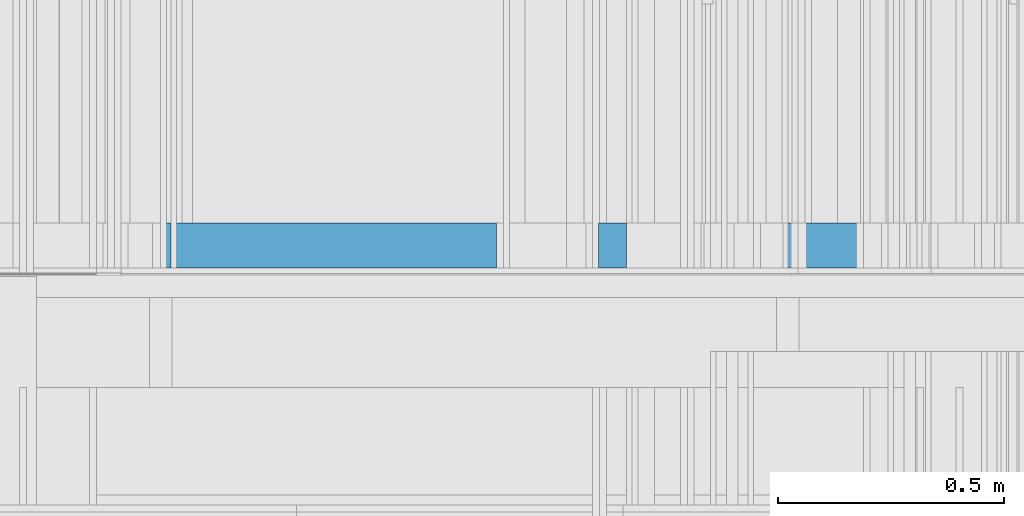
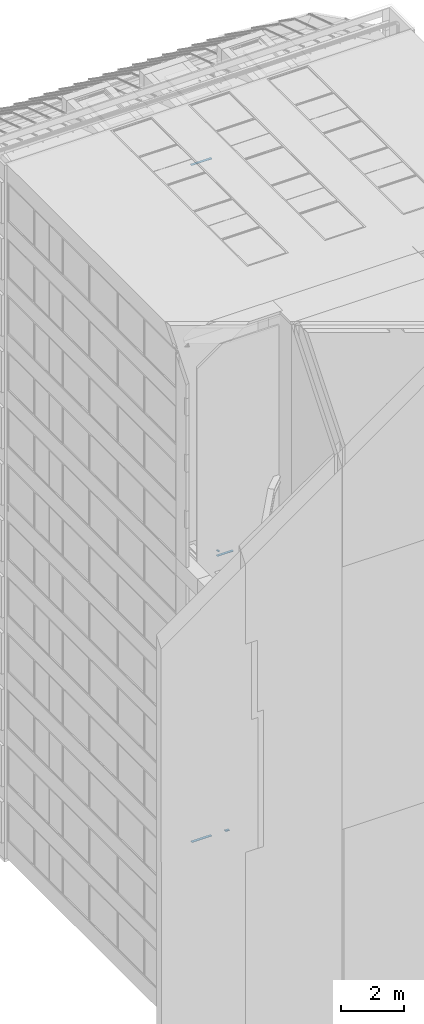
# One storey, part 212 of 583: 5 building element parts, 4 elements without a shape of their own.
"""IFC2X3 building model written with IfcOpenShell, lengths in metres."""

import ifcopenshell
import ifcopenshell.guid

model = None  # the IFC model being written
_history = None  # IfcOwnerHistory: only IFC2X3 demands one
_inside = {}  # id of a spatial element -> (the spatial element, [elements in it])
_under = {}  # id of a project, library or spatial element -> (it, [spatial elements below it])
_declared = {}  # id of a project -> (the project, [libraries it declares])
_typed = {}  # id of a type object -> (the type object, [elements of that type])
_made_of = {}  # id of a material, layer set ... -> (it, [elements and type objects made of it])


def new_model(schema):
    """Start an empty IFC model of exactly this schema.

    Asked for "IFC4X3", IfcOpenShell would pick the latest addendum, in which some entities
    have other attributes; the version numbers below select the first issue.
    IFC2X3 requires an IfcOwnerHistory on every rooted entity: one is made here for all.
    """
    global model, _history
    if schema == "IFC4X3":
        model = ifcopenshell.file(schema_version=(4, 3, 0, 0))
    else:
        model = ifcopenshell.file(schema=schema)
    _inside.clear()
    _under.clear()
    _declared.clear()
    _typed.clear()
    _made_of.clear()
    _history = None
    if model.schema == "IFC2X3":
        org = make("IfcOrganization", Name="unknown")
        user = make(
            "IfcPersonAndOrganization",
            ThePerson=make("IfcPerson", FamilyName="unknown"),
            TheOrganization=org,
        )
        app = make(
            "IfcApplication",
            ApplicationDeveloper=org,
            Version="unknown",
            ApplicationFullName="unknown",
            ApplicationIdentifier="unknown",
        )
        _history = make(
            "IfcOwnerHistory",
            OwningUser=user,
            OwningApplication=app,
            ChangeAction="ADDED",
            CreationDate=0,
        )
    return model


def make(cls, **values):
    """One entity of the class cls with the attributes given. An attribute that is None is left unset."""
    return model.create_entity(
        cls, **{name: value for name, value in values.items() if value is not None}
    )


def entity(cls, *values):
    """Any entity or typed value of the class cls, its attributes in the order of the schema. None: left unset."""
    e = model.create_entity(cls)
    for i, value in enumerate(values):
        if value is not None:
            e[i] = value
    return e


def rooted(cls, **values):
    """An entity with a GlobalId (a new one), such as an element, a storey or a relation."""
    return make(cls, GlobalId=ifcopenshell.guid.new(), OwnerHistory=_history, **values)


def si_unit(unit_type, name, prefix=None):
    """IfcSIUnit, for example si_unit("LENGTHUNIT", "METRE", prefix="MILLI")."""
    return make("IfcSIUnit", UnitType=unit_type, Prefix=prefix, Name=name)


def converted_unit(unit_type, name, factor, base, dimensions=None, offset=None):
    """IfcConversionBasedUnit, such as the inch: factor (a typed value) times the base unit."""
    return make(
        "IfcConversionBasedUnit"
        if offset is None
        else "IfcConversionBasedUnitWithOffset",
        ConversionOffset=offset,
        Dimensions=None
        if dimensions is None
        else entity("IfcDimensionalExponents", *dimensions),
        UnitType=unit_type,
        Name=name,
        ConversionFactor=make(
            "IfcMeasureWithUnit", ValueComponent=factor, UnitComponent=base
        ),
    )


def derived_unit(unit_type, elements):
    """IfcDerivedUnit: a product of units, each with its exponent."""
    return make(
        "IfcDerivedUnit",
        Elements=[
            make("IfcDerivedUnitElement", Unit=unit, Exponent=power)
            for unit, power in elements
        ],
        UnitType=unit_type,
    )


def money_unit(currency):
    """IfcMonetaryUnit."""
    return make("IfcMonetaryUnit", Currency=currency)


def assignment(units):
    """IfcUnitAssignment: the units of a project."""
    return None if units is None else make("IfcUnitAssignment", Units=units)


def point(xyz):
    """IfcCartesianPoint."""
    return None if xyz is None else make("IfcCartesianPoint", Coordinates=xyz)


def direction(xyz):
    """IfcDirection."""
    return None if xyz is None else make("IfcDirection", DirectionRatios=xyz)


def frame(location, z_axis=None, x_axis=None):
    """IfcAxis2Placement3D, a coordinate frame: its origin and axes. An axis left out is left unset."""
    return make(
        "IfcAxis2Placement3D",
        Location=point(location),
        Axis=direction(z_axis),
        RefDirection=direction(x_axis),
    )


def frame_2d(location, x_axis=None):
    """IfcAxis2Placement2D, a coordinate frame in the plane: its origin and x axis."""
    return make(
        "IfcAxis2Placement2D", Location=point(location), RefDirection=direction(x_axis)
    )


def origin_with_axes():
    """The frame at (0, 0, 0) with the z axis (0, 0, 1) and the x axis (1, 0, 0) written out."""
    return frame((0.0, 0.0, 0.0), z_axis=(0.0, 0.0, 1.0), x_axis=(1.0, 0.0, 0.0))


def place(relative_to, where):
    """IfcLocalPlacement: puts the frame where relative to a parent placement (None: the world)."""
    return make(
        "IfcLocalPlacement", PlacementRelTo=relative_to, RelativePlacement=where
    )


def context(
    kind, dimensions, precision=None, world=None, true_north=None, identifier=None
):
    """IfcGeometricRepresentationContext, for example the 3D "Model" context."""
    return make(
        "IfcGeometricRepresentationContext",
        ContextIdentifier=identifier,
        ContextType=kind,
        CoordinateSpaceDimension=dimensions,
        Precision=precision,
        WorldCoordinateSystem=world,
        TrueNorth=true_north,
    )


def subcontext(parent, identifier, kind, view, scale=None):
    """IfcGeometricRepresentationSubContext, for example "Body" below "Model"."""
    return make(
        "IfcGeometricRepresentationSubContext",
        ContextIdentifier=identifier,
        ContextType=kind,
        ParentContext=parent,
        TargetScale=scale,
        TargetView=view,
    )


def project(units=None, contexts=None):
    """IfcProject with its units and contexts."""
    return rooted(
        "IfcProject",
        Name="project",
        RepresentationContexts=contexts,
        UnitsInContext=assignment(units),
    )


def spatial(cls, under=None, at=None, **own):
    """A site, building, storey or space (cls), placed at a placement, below another one or the project."""
    s = rooted(cls, ObjectPlacement=at, **own)
    if under is not None:
        _under.setdefault(under.id(), (under, []))[1].append(s)
    return s


def polyline(points):
    """IfcPolyline through the points."""
    return make("IfcPolyline", Points=[point(p) for p in points])


def profile(cls, at=None, kind="AREA", **sizes):
    """A parametric profile (cls). Its sizes go by their IFC names, for example OverallWidth=200.0."""
    return make(cls, ProfileType=kind, Position=at, **sizes)


def rectangle(**sizes):
    """IfcRectangleProfileDef."""
    return profile("IfcRectangleProfileDef", **sizes)


def outline(outer, holes=None, kind="AREA"):
    """IfcArbitraryClosedProfileDef: a profile drawn as a closed curve; with holes, ...WithVoids."""
    if holes is None:
        return make("IfcArbitraryClosedProfileDef", ProfileType=kind, OuterCurve=outer)
    return make(
        "IfcArbitraryProfileDefWithVoids",
        ProfileType=kind,
        OuterCurve=outer,
        InnerCurves=holes,
    )


def extrude(swept, where, along, depth):
    """IfcExtrudedAreaSolid: the profile swept, set in the frame where, extruded along a direction by depth."""
    return make(
        "IfcExtrudedAreaSolid",
        SweptArea=swept,
        Position=where,
        ExtrudedDirection=direction(along),
        Depth=depth,
    )


def shape(context_of_items, identifier, shape_type, items):
    """IfcShapeRepresentation: the items that make up one representation, for example the "Body"."""
    return make(
        "IfcShapeRepresentation",
        ContextOfItems=context_of_items,
        RepresentationIdentifier=identifier,
        RepresentationType=shape_type,
        Items=items,
    )


def material(Name=None, Category=None):
    """IfcMaterial."""
    return make("IfcMaterial", Name=Name, Category=Category)


def made_of(thing, what):
    """Note that an element or type object is made of a material, layer set ...; save() writes the relation."""
    if what is not None:
        _made_of.setdefault(what.id(), (what, []))[1].append(thing)
    return thing


def type_object(cls, material=None, **own):
    """A type object (cls), such as IfcWallType, which elements share."""
    return made_of(rooted(cls, **own), material)


def element(
    cls,
    number,
    at=None,
    inside=None,
    cuts=None,
    type_object=None,
    material=None,
    context=None,
    identifier="Body",
    shape_type=None,
    held_by="IfcProductDefinitionShape",
    body=None,
    shapes=None,
    **own,
):
    """One element of the class cls, such as IfcWall. Its Tag is "e" and its number.

    at: its placement. inside: the storey or other place that contains it. cuts: it is an
    opening in that element (IfcRelVoidsElement). A single representation is given by context,
    identifier, shape_type and body (its items); several are given by shapes. held_by: the class
    of the entity that holds the representations. save() writes the other relations.
    """
    e = rooted(cls, Tag="e%d" % number, ObjectPlacement=at, **own)
    if body is not None:
        shapes = [shape(context, identifier, shape_type, body)]
    if shapes is not None:
        e.Representation = make(held_by, Representations=shapes)
    if inside is not None:
        _inside.setdefault(inside.id(), (inside, []))[1].append(e)
    if cuts is not None:
        rooted(
            "IfcRelVoidsElement", RelatingBuildingElement=cuts, RelatedOpeningElement=e
        )
    if type_object is not None:
        _typed.setdefault(type_object.id(), (type_object, []))[1].append(e)
    return made_of(e, material)


def aggregate(whole, parts):
    """IfcRelAggregates: a whole, such as a stair, and the parts it consists of."""
    return rooted("IfcRelAggregates", RelatingObject=whole, RelatedObjects=parts)


def save(model, path):
    """Write the relations noted so far, then the file.

    IfcRelAggregates (storeys below a building ...), IfcRelContainedInSpatialStructure (elements
    in a storey), IfcRelDefinesByType, IfcRelAssociatesMaterial and IfcRelDeclares: one each for
    every whole, place, type object, material and project.
    """
    for whole, parts in _under.values():
        aggregate(whole, parts)
    for where, things in _inside.values():
        rooted(
            "IfcRelContainedInSpatialStructure",
            RelatedElements=things,
            RelatingStructure=where,
        )
    for kind, things in _typed.values():
        rooted("IfcRelDefinesByType", RelatedObjects=things, RelatingType=kind)
    for what, things in _made_of.values():
        rooted("IfcRelAssociatesMaterial", RelatedObjects=things, RelatingMaterial=what)
    for by, libraries in _declared.values():
        rooted("IfcRelDeclares", RelatingContext=by, RelatedDefinitions=libraries)
    model.write(path)


model = new_model("IFC2X3")

# Units and contexts
model_context = context("Model", 3, precision=1e-05, world=origin_with_axes(), true_north=direction((0.0, 1.0)))
body_context = subcontext(model_context, "Body", "Model", "MODEL_VIEW", scale=1.0)
ifc_project = project(units=[si_unit("LENGTHUNIT", "METRE"), si_unit("AREAUNIT", "SQUARE_METRE"), si_unit("VOLUMEUNIT", "CUBIC_METRE"), si_unit("ABSORBEDDOSEUNIT", "GRAY"), si_unit("AMOUNTOFSUBSTANCEUNIT", "MOLE"), si_unit("DOSEEQUIVALENTUNIT", "SIEVERT"), si_unit("ELECTRICCAPACITANCEUNIT", "FARAD"), si_unit("ELECTRICCHARGEUNIT", "COULOMB"), si_unit("ELECTRICCONDUCTANCEUNIT", "SIEMENS"), si_unit("ELECTRICCURRENTUNIT", "AMPERE"), si_unit("ELECTRICRESISTANCEUNIT", "OHM"), si_unit("ELECTRICVOLTAGEUNIT", "VOLT"), si_unit("ENERGYUNIT", "JOULE"), si_unit("FORCEUNIT", "NEWTON"), si_unit("FREQUENCYUNIT", "HERTZ"), si_unit("ILLUMINANCEUNIT", "LUX"), si_unit("INDUCTANCEUNIT", "HENRY"), si_unit("LUMINOUSFLUXUNIT", "LUMEN"), si_unit("LUMINOUSINTENSITYUNIT", "CANDELA"), si_unit("MAGNETICFLUXDENSITYUNIT", "TESLA"), si_unit("MAGNETICFLUXUNIT", "WEBER"), si_unit("MASSUNIT", "GRAM"), converted_unit("PLANEANGLEUNIT", "degree", entity("IfcReal", 0.0174532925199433), si_unit("PLANEANGLEUNIT", "RADIAN"), dimensions=[0, 0, 0, 0, 0, 0, 0]), si_unit("POWERUNIT", "WATT"), si_unit("PRESSUREUNIT", "PASCAL"), si_unit("RADIOACTIVITYUNIT", "BECQUEREL"), si_unit("SOLIDANGLEUNIT", "STERADIAN"), si_unit("THERMODYNAMICTEMPERATUREUNIT", "KELVIN"), si_unit("TIMEUNIT", "SECOND"), derived_unit("ACCELERATIONUNIT", [(si_unit("LENGTHUNIT", "METRE"), 1), (si_unit("TIMEUNIT", "SECOND"), -2)]), derived_unit("ANGULARVELOCITYUNIT", [(converted_unit("PLANEANGLEUNIT", "degree", entity("IfcReal", 0.0174532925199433), si_unit("PLANEANGLEUNIT", "RADIAN"), dimensions=[0, 0, 0, 0, 0, 0, 0]), 1), (si_unit("TIMEUNIT", "SECOND"), -1)]), derived_unit("CURVATUREUNIT", [(converted_unit("PLANEANGLEUNIT", "degree", entity("IfcReal", 0.0174532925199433), si_unit("PLANEANGLEUNIT", "RADIAN"), dimensions=[0, 0, 0, 0, 0, 0, 0]), 1), (si_unit("LENGTHUNIT", "METRE"), -1)]), derived_unit("DYNAMICVISCOSITYUNIT", [(si_unit("PRESSUREUNIT", "PASCAL"), 1), (si_unit("TIMEUNIT", "SECOND"), 1)]), derived_unit("HEATFLUXDENSITYUNIT", [(si_unit("POWERUNIT", "WATT"), 1), (si_unit("LENGTHUNIT", "METRE"), -2)]), derived_unit("HEATINGVALUEUNIT", [(si_unit("ENERGYUNIT", "JOULE"), 1), (si_unit("MASSUNIT", "GRAM"), -1)]), derived_unit("INTEGERCOUNTRATEUNIT", [(si_unit("TIMEUNIT", "SECOND"), -1)]), derived_unit("IONCONCENTRATIONUNIT", [(si_unit("MASSUNIT", "GRAM"), 1), (si_unit("VOLUMEUNIT", "CUBIC_METRE"), -1)]), derived_unit("ISOTHERMALMOISTURECAPACITYUNIT", [(si_unit("VOLUMEUNIT", "CUBIC_METRE"), 1), (si_unit("MASSUNIT", "GRAM"), -1)]), derived_unit("KINEMATICVISCOSITYUNIT", [(si_unit("AREAUNIT", "SQUARE_METRE"), 1), (si_unit("TIMEUNIT", "SECOND"), -1)]), derived_unit("LINEARFORCEUNIT", [(si_unit("FORCEUNIT", "NEWTON"), 1), (si_unit("LENGTHUNIT", "METRE"), -1)]), derived_unit("LINEARMOMENTUNIT", [(si_unit("FORCEUNIT", "NEWTON"), 1), (si_unit("LENGTHUNIT", "METRE"), -1)]), derived_unit("LINEARSTIFFNESSUNIT", [(si_unit("FORCEUNIT", "NEWTON"), 1), (si_unit("LENGTHUNIT", "METRE"), -1)]), derived_unit("LINEARVELOCITYUNIT", [(si_unit("LENGTHUNIT", "METRE"), 1), (si_unit("TIMEUNIT", "SECOND"), -1)]), derived_unit("LUMINOUSINTENSITYDISTRIBUTIONUNIT", [(si_unit("LUMINOUSINTENSITYUNIT", "CANDELA"), 1), (si_unit("LUMINOUSFLUXUNIT", "LUMEN"), -1)]), derived_unit("MASSDENSITYUNIT", [(si_unit("MASSUNIT", "GRAM"), 1), (si_unit("VOLUMEUNIT", "CUBIC_METRE"), -1)]), derived_unit("MASSFLOWRATEUNIT", [(si_unit("MASSUNIT", "GRAM"), 1), (si_unit("TIMEUNIT", "SECOND"), -1)]), derived_unit("MASSPERLENGTHUNIT", [(si_unit("MASSUNIT", "GRAM"), 1), (si_unit("LENGTHUNIT", "METRE"), -1)]), derived_unit("MODULUSOFELASTICITYUNIT", [(si_unit("FORCEUNIT", "NEWTON"), 1), (si_unit("AREAUNIT", "SQUARE_METRE"), -1)]), derived_unit("MODULUSOFLINEARSUBGRADEREACTIONUNIT", [(si_unit("FORCEUNIT", "NEWTON"), 1), (si_unit("LENGTHUNIT", "METRE"), -2)]), derived_unit("MODULUSOFROTATIONALSUBGRADEREACTIONUNIT", [(si_unit("FORCEUNIT", "NEWTON"), 1), (si_unit("LENGTHUNIT", "METRE"), 1)]), derived_unit("MODULUSOFSUBGRADEREACTIONUNIT", [(si_unit("FORCEUNIT", "NEWTON"), 1), (si_unit("VOLUMEUNIT", "CUBIC_METRE"), -1)]), derived_unit("MOISTUREDIFFUSIVITYUNIT", [(si_unit("VOLUMEUNIT", "CUBIC_METRE"), 1), (si_unit("TIMEUNIT", "SECOND"), -1)]), derived_unit("MOLECULARWEIGHTUNIT", [(si_unit("MASSUNIT", "GRAM"), 1), (si_unit("AMOUNTOFSUBSTANCEUNIT", "MOLE"), -1)]), derived_unit("PLANARFORCEUNIT", [(si_unit("FORCEUNIT", "NEWTON"), 1), (si_unit("LENGTHUNIT", "METRE"), -2)]), derived_unit("ROTATIONALFREQUENCYUNIT", [(si_unit("TIMEUNIT", "SECOND"), -1)]), derived_unit("ROTATIONALMASSUNIT", [(si_unit("MASSUNIT", "GRAM"), 1), (si_unit("LENGTHUNIT", "METRE"), 2)]), derived_unit("ROTATIONALSTIFFNESSUNIT", [(si_unit("FORCEUNIT", "NEWTON"), 1), (si_unit("LENGTHUNIT", "METRE"), 1), (converted_unit("PLANEANGLEUNIT", "degree", entity("IfcReal", 0.0174532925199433), si_unit("PLANEANGLEUNIT", "RADIAN"), dimensions=[0, 0, 0, 0, 0, 0, 0]), -1)]), derived_unit("SECTIONAREAINTEGRALUNIT", [(si_unit("LENGTHUNIT", "METRE"), 5)]), derived_unit("SECTIONMODULUSUNIT", [(si_unit("LENGTHUNIT", "METRE"), 3)]), derived_unit("SHEARMODULUSUNIT", [(si_unit("FORCEUNIT", "NEWTON"), 1), (si_unit("AREAUNIT", "SQUARE_METRE"), -1)]), derived_unit("SOUNDPOWERUNIT", [(si_unit("ENERGYUNIT", "JOULE"), 1), (si_unit("TIMEUNIT", "SECOND"), -1)]), derived_unit("SPECIFICHEATCAPACITYUNIT", [(si_unit("FORCEUNIT", "NEWTON"), 1), (si_unit("MASSUNIT", "GRAM"), -1), (si_unit("THERMODYNAMICTEMPERATUREUNIT", "KELVIN"), -1)]), derived_unit("TEMPERATUREGRADIENTUNIT", [(si_unit("THERMODYNAMICTEMPERATUREUNIT", "KELVIN"), 1), (si_unit("LENGTHUNIT", "METRE"), -1)]), derived_unit("THERMALADMITTANCEUNIT", [(si_unit("POWERUNIT", "WATT"), 1), (si_unit("AREAUNIT", "SQUARE_METRE"), -1), (si_unit("THERMODYNAMICTEMPERATUREUNIT", "KELVIN"), -1)]), derived_unit("THERMALCONDUCTANCEUNIT", [(si_unit("POWERUNIT", "WATT"), 1), (si_unit("LENGTHUNIT", "METRE"), -1), (si_unit("THERMODYNAMICTEMPERATUREUNIT", "KELVIN"), -1)]), derived_unit("THERMALEXPANSIONCOEFFICIENTUNIT", [(si_unit("THERMODYNAMICTEMPERATUREUNIT", "KELVIN"), -1)]), derived_unit("THERMALRESISTANCEUNIT", [(si_unit("AREAUNIT", "SQUARE_METRE"), 1), (si_unit("POWERUNIT", "WATT"), -1)]), derived_unit("THERMALTRANSMITTANCEUNIT", [(si_unit("POWERUNIT", "WATT"), 1), (si_unit("AREAUNIT", "SQUARE_METRE"), -1), (si_unit("THERMODYNAMICTEMPERATUREUNIT", "KELVIN"), -1)]), derived_unit("TORQUEUNIT", [(si_unit("FORCEUNIT", "NEWTON"), 1), (si_unit("LENGTHUNIT", "METRE"), 1)]), derived_unit("VAPORPERMEABILITYUNIT", [(si_unit("MASSUNIT", "GRAM"), 1), (si_unit("TIMEUNIT", "SECOND"), -1)]), derived_unit("VOLUMETRICFLOWRATEUNIT", [(si_unit("VOLUMEUNIT", "CUBIC_METRE"), 1), (si_unit("TIMEUNIT", "SECOND"), -1)]), derived_unit("WARPINGCONSTANTUNIT", [(si_unit("LENGTHUNIT", "METRE"), 6)]), derived_unit("WARPINGMOMENTUNIT", [(si_unit("FORCEUNIT", "NEWTON"), 1), (si_unit("LENGTHUNIT", "METRE"), 2)]), money_unit("GBP")], contexts=[model_context])

# Site, building, storey
site_placement = place(None, origin_with_axes())
site = spatial("IfcSite", under=ifc_project, at=site_placement, Name="Site", CompositionType="ELEMENT")
building_placement = place(site_placement, origin_with_axes())
building = spatial("IfcBuilding", under=site, at=building_placement, Name="Building01", CompositionType="ELEMENT")
storey_placement = place(building_placement, frame((0.0, 0.0, 20.78), z_axis=(0.0, 0.0, 1.0), x_axis=(1.0, 0.0, 0.0)))
storey = spatial("IfcBuildingStorey", under=building, at=storey_placement, Name="RL", CompositionType="ELEMENT", Elevation=20.78)

# Wall, building element parts
wall_type_1 = type_object("IfcWallType", Name="SHE_A-Walls_Type03a_BlockworkWall_170mm", PredefinedType="NOTDEFINED")
wall_1_placement = place(storey_placement, frame((6.263, 12.13, -9.635), z_axis=(0.0, 1.0, 0.0), x_axis=(1.0, 0.0, 0.0)))
wall_1 = element("IfcWall", 1, at=wall_1_placement, inside=storey, type_object=wall_type_1, Name="4B", ObjectType="SHE_A-Walls_Type03a_BlockworkWall_170mm")
ifc_material = material(Name="A_BSUK_Walls_Timber")
placement = place(wall_1_placement, origin_with_axes())
building_element_part_1 = element("IfcBuildingElementPart", 2, at=placement, material=ifc_material, Name="2", context=body_context, shape_type="SweptSolid", body=[
    extrude(outline(polyline([(0.572, 0.03), (-0.013, 0.03), (-0.013, 0.015), (0.587, 0.015), (0.572, 0.03)])), frame((0.0, 0.0, 0.015), z_axis=(0.0, 0.0, 1.0), x_axis=(1.0, 0.0, 0.0)), (0.0, 0.0, 1.0), 0.1),
])
building_element_part_2 = element("IfcBuildingElementPart", 3, at=placement, material=ifc_material, Name="5", context=body_context, shape_type="SweptSolid", body=[
    extrude(rectangle(XDim=0.062, YDim=0.015, at=frame_2d((0.031, -0.1625), x_axis=(-1.0, 0.0))), frame((0.0, 0.0, 0.015), z_axis=(0.0, 0.0, 1.0), x_axis=(1.0, 0.0, 0.0)), (0.0, 0.0, 1.0), 0.1),
])
aggregate(wall_1, [building_element_part_1, building_element_part_2])

# Wall, building element part
wall_type_2 = type_object("IfcWallType", Name="SHE_A-Walls_Type06d_ExternalWallInsulation_48mm", PredefinedType="NOTDEFINED")
wall_2_placement = place(storey_placement, frame((6.64418, 12.13, -20.51), z_axis=(0.0, 1.0, 0.0), x_axis=(-1.0, 0.0, 0.0)))
wall_2 = element("IfcWall", 4, at=wall_2_placement, inside=storey, type_object=wall_type_2, Name="6D", ObjectType="SHE_A-Walls_Type06d_ExternalWallInsulation_48mm")
building_element_part_3_placement = place(wall_2_placement, origin_with_axes())
building_element_part_3 = element("IfcBuildingElementPart", 5, at=building_element_part_3_placement, material=ifc_material, Name="2", context=body_context, shape_type="SweptSolid", body=[
    extrude(outline(polyline([(0.08118, 0.063), (-0.048, 0.063), (-0.048, 0.048), (0.09618, 0.048), (0.08118, 0.063)])), frame((0.0, 0.0, 0.015), z_axis=(0.0, 0.0, 1.0), x_axis=(1.0, 0.0, 0.0)), (0.0, 0.0, 1.0), 0.1),
])
aggregate(wall_2, [building_element_part_3])

wall_3_placement = place(storey_placement, frame((6.1, 12.13, -20.51), z_axis=(0.0, 1.0, 0.0), x_axis=(-1.0, 0.0, 0.0)))
wall_3 = element("IfcWall", 6, at=wall_3_placement, inside=storey, type_object=wall_type_2, Name="6D", ObjectType="SHE_A-Walls_Type06d_ExternalWallInsulation_48mm")
building_element_part_4_placement = place(wall_3_placement, origin_with_axes())
building_element_part_4 = element("IfcBuildingElementPart", 7, at=building_element_part_4_placement, material=ifc_material, Name="2", context=body_context, shape_type="SweptSolid", body=[
    extrude(outline(polyline([(0.063, 0.063), (0.048, 0.048), (0.785, 0.048), (0.785, 0.063), (0.063, 0.063)])), frame((0.0, 0.0, 0.015), z_axis=(0.0, 0.0, 1.0), x_axis=(1.0, 0.0, 0.0)), (0.0, 0.0, 1.0), 0.1),
])
aggregate(wall_3, [building_element_part_4])

wall_4_placement = place(storey_placement, frame((5.34018, 12.13, 5.93), z_axis=(0.0, 1.0, 0.0), x_axis=(1.0, 0.0, 0.0)))
wall_4 = element("IfcWall", 8, at=wall_4_placement, inside=storey, type_object=wall_type_2, Name="6D", ObjectType="SHE_A-Walls_Type06d_ExternalWallInsulation_48mm")
building_element_part_5_placement = place(wall_4_placement, origin_with_axes())
building_element_part_5 = element("IfcBuildingElementPart", 9, at=building_element_part_5_placement, material=ifc_material, Name="2", context=body_context, shape_type="SweptSolid", body=[
    extrude(outline(polyline([(0.69682, 0.063), (-0.048, 0.063), (-0.048, 0.048), (0.71182, 0.048), (0.69682, 0.063)])), frame((0.0, 0.0, 0.015), z_axis=(0.0, 0.0, 1.0), x_axis=(1.0, 0.0, 0.0)), (0.0, 0.0, 1.0), 0.1),
])
aggregate(wall_4, [building_element_part_5])

save(model, "model.ifc")
